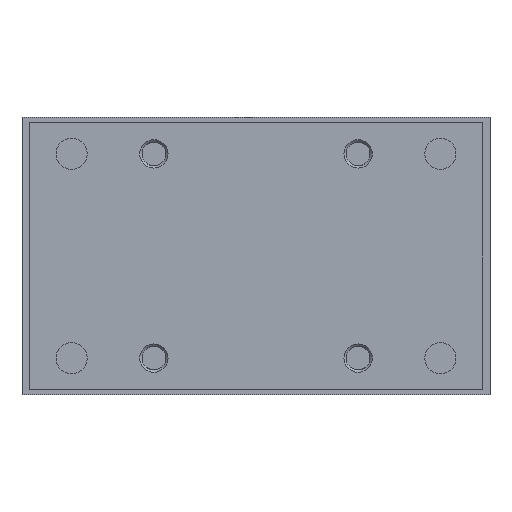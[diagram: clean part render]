
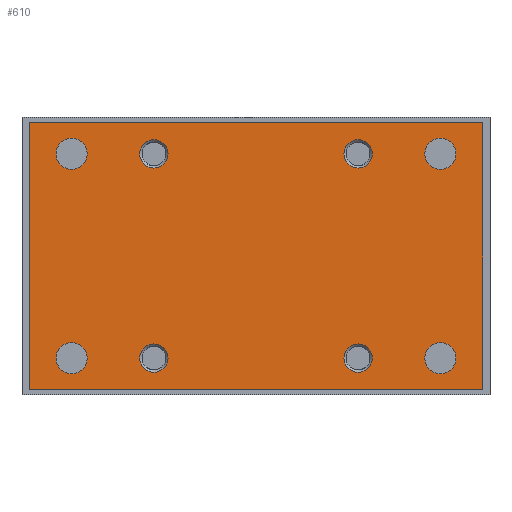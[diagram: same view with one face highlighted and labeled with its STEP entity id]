
A CAD part, left-side view. The second image highlights one B-rep face of the part: STEP entity #610.
In plain terms, the highlighted planar face has unit normal (-1, 0, 0).
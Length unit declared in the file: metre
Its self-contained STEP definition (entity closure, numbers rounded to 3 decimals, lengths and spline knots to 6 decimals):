
#610 = ADVANCED_FACE( '', ( #1417, #1418, #1419, #1420, #1421, #1422, #1423, #1424, #1425 ), #1426, .F. );
#1417 = FACE_BOUND( '', #2375, .T. );
#1418 = FACE_BOUND( '', #2376, .T. );
#1419 = FACE_BOUND( '', #2377, .T. );
#1420 = FACE_BOUND( '', #2378, .T. );
#1421 = FACE_BOUND( '', #2379, .T. );
#1422 = FACE_BOUND( '', #2380, .T. );
#1423 = FACE_BOUND( '', #2381, .T. );
#1424 = FACE_BOUND( '', #2382, .T. );
#1425 = FACE_OUTER_BOUND( '', #2383, .T. );
#1426 = PLANE( '', #2384 );
#2375 = EDGE_LOOP( '', ( #3922 ) );
#2376 = EDGE_LOOP( '', ( #3923 ) );
#2377 = EDGE_LOOP( '', ( #3924 ) );
#2378 = EDGE_LOOP( '', ( #3925 ) );
#2379 = EDGE_LOOP( '', ( #3926 ) );
#2380 = EDGE_LOOP( '', ( #3927 ) );
#2381 = EDGE_LOOP( '', ( #3928 ) );
#2382 = EDGE_LOOP( '', ( #3929 ) );
#2383 = EDGE_LOOP( '', ( #3930, #3931, #3932, #3933 ) );
#2384 = AXIS2_PLACEMENT_3D( '', #3934, #3935, #3936 );
#3922 = ORIENTED_EDGE( '', *, *, #4918, .T. );
#3923 = ORIENTED_EDGE( '', *, *, #5015, .T. );
#3924 = ORIENTED_EDGE( '', *, *, #4814, .T. );
#3925 = ORIENTED_EDGE( '', *, *, #4790, .T. );
#3926 = ORIENTED_EDGE( '', *, *, #4992, .T. );
#3927 = ORIENTED_EDGE( '', *, *, #5016, .F. );
#3928 = ORIENTED_EDGE( '', *, *, #4542, .F. );
#3929 = ORIENTED_EDGE( '', *, *, #5017, .T. );
#3930 = ORIENTED_EDGE( '', *, *, #5018, .T. );
#3931 = ORIENTED_EDGE( '', *, *, #5019, .T. );
#3932 = ORIENTED_EDGE( '', *, *, #4801, .T. );
#3933 = ORIENTED_EDGE( '', *, *, #4806, .T. );
#3934 = CARTESIAN_POINT( '', ( -0.107, -0.08, -0.096 ) );
#3935 = DIRECTION( '', ( 1., 0., 0. ) );
#3936 = DIRECTION( '', ( 0., 0., -1. ) );
#4542 = EDGE_CURVE( '', #5243, #5243, #5244, .T. );
#4790 = EDGE_CURVE( '', #5635, #5635, #5636, .T. );
#4801 = EDGE_CURVE( '', #5654, #5652, #5655, .T. );
#4806 = EDGE_CURVE( '', #5652, #5660, #5662, .T. );
#4814 = EDGE_CURVE( '', #5674, #5674, #5675, .T. );
#4918 = EDGE_CURVE( '', #5823, #5823, #5824, .T. );
#4992 = EDGE_CURVE( '', #5925, #5925, #5926, .T. );
#5015 = EDGE_CURVE( '', #5954, #5954, #5955, .T. );
#5016 = EDGE_CURVE( '', #5956, #5956, #5957, .T. );
#5017 = EDGE_CURVE( '', #5958, #5958, #5959, .T. );
#5018 = EDGE_CURVE( '', #5660, #5960, #5961, .T. );
#5019 = EDGE_CURVE( '', #5960, #5654, #5962, .T. );
#5243 = VERTEX_POINT( '', #6250 );
#5244 = CIRCLE( '', #6251, 0.005 );
#5635 = VERTEX_POINT( '', #6799 );
#5636 = CIRCLE( '', #6800, 0.0055 );
#5652 = VERTEX_POINT( '', #6819 );
#5654 = VERTEX_POINT( '', #6822 );
#5655 = LINE( '', #6823, #6824 );
#5660 = VERTEX_POINT( '', #6831 );
#5662 = LINE( '', #6834, #6835 );
#5674 = VERTEX_POINT( '', #6847 );
#5675 = CIRCLE( '', #6848, 0.0055 );
#5823 = VERTEX_POINT( '', #7026 );
#5824 = CIRCLE( '', #7027, 0.0055 );
#5925 = VERTEX_POINT( '', #7188 );
#5926 = CIRCLE( '', #7189, 0.005 );
#5954 = VERTEX_POINT( '', #7286 );
#5955 = CIRCLE( '', #7287, 0.0055 );
#5956 = VERTEX_POINT( '', #7288 );
#5957 = CIRCLE( '', #7289, 0.005 );
#5958 = VERTEX_POINT( '', #7290 );
#5959 = CIRCLE( '', #7291, 0.005 );
#5960 = VERTEX_POINT( '', #7292 );
#5961 = LINE( '', #7293, #7294 );
#5962 = LINE( '', #7295, #7296 );
#6250 = CARTESIAN_POINT( '', ( -0.107, -0.036, -0.008 ) );
#6251 = AXIS2_PLACEMENT_3D( '', #7601, #7602, #7603 );
#6799 = CARTESIAN_POINT( '', ( -0.107, 0.0705, -0.013 ) );
#6800 = AXIS2_PLACEMENT_3D( '', #7935, #7936, #7937 );
#6819 = CARTESIAN_POINT( '', ( -0.107, 0.08, -0.096 ) );
#6822 = CARTESIAN_POINT( '', ( -0.107, 0.08, -0.002 ) );
#6823 = CARTESIAN_POINT( '', ( -0.107, 0.08, -0.002 ) );
#6824 = VECTOR( '', #7951, 1. );
#6831 = CARTESIAN_POINT( '', ( -0.107, -0.08, -0.096 ) );
#6834 = CARTESIAN_POINT( '', ( -0.107, 0.08, -0.096 ) );
#6835 = VECTOR( '', #7955, 1. );
#6847 = CARTESIAN_POINT( '', ( -0.107, -0.0595, -0.013 ) );
#6848 = AXIS2_PLACEMENT_3D( '', #7971, #7972, #7973 );
#7026 = CARTESIAN_POINT( '', ( -0.107, -0.0595, -0.085 ) );
#7027 = AXIS2_PLACEMENT_3D( '', #8106, #8107, #8108 );
#7188 = CARTESIAN_POINT( '', ( -0.107, -0.036, -0.09 ) );
#7189 = AXIS2_PLACEMENT_3D( '', #8187, #8188, #8189 );
#7286 = CARTESIAN_POINT( '', ( -0.107, 0.0705, -0.085 ) );
#7287 = AXIS2_PLACEMENT_3D( '', #8205, #8206, #8207 );
#7288 = CARTESIAN_POINT( '', ( -0.107, 0.036, -0.09 ) );
#7289 = AXIS2_PLACEMENT_3D( '', #8208, #8209, #8210 );
#7290 = CARTESIAN_POINT( '', ( -0.107, 0.036, -0.008 ) );
#7291 = AXIS2_PLACEMENT_3D( '', #8211, #8212, #8213 );
#7292 = CARTESIAN_POINT( '', ( -0.107, -0.08, -0.002 ) );
#7293 = CARTESIAN_POINT( '', ( -0.107, -0.08, -0.096 ) );
#7294 = VECTOR( '', #8214, 1. );
#7295 = CARTESIAN_POINT( '', ( -0.107, -0.08, -0.002 ) );
#7296 = VECTOR( '', #8215, 1. );
#7601 = CARTESIAN_POINT( '', ( -0.107, -0.036, -0.013 ) );
#7602 = DIRECTION( '', ( -1., 0., 0. ) );
#7603 = DIRECTION( '', ( 0., 0., 1. ) );
#7935 = CARTESIAN_POINT( '', ( -0.107, 0.065, -0.013 ) );
#7936 = DIRECTION( '', ( 1., 0., 0. ) );
#7937 = DIRECTION( '', ( 0., 1., 0. ) );
#7951 = DIRECTION( '', ( 0., 0., -1. ) );
#7955 = DIRECTION( '', ( 0., -1., 0. ) );
#7971 = CARTESIAN_POINT( '', ( -0.107, -0.065, -0.013 ) );
#7972 = DIRECTION( '', ( 1., 0., 0. ) );
#7973 = DIRECTION( '', ( 0., 1., 0. ) );
#8106 = CARTESIAN_POINT( '', ( -0.107, -0.065, -0.085 ) );
#8107 = DIRECTION( '', ( 1., 0., 0. ) );
#8108 = DIRECTION( '', ( 0., 1., 0. ) );
#8187 = CARTESIAN_POINT( '', ( -0.107, -0.036, -0.085 ) );
#8188 = DIRECTION( '', ( 1., 0., 0. ) );
#8189 = DIRECTION( '', ( 0., 0., -1. ) );
#8205 = CARTESIAN_POINT( '', ( -0.107, 0.065, -0.085 ) );
#8206 = DIRECTION( '', ( 1., 0., 0. ) );
#8207 = DIRECTION( '', ( 0., 1., 0. ) );
#8208 = CARTESIAN_POINT( '', ( -0.107, 0.036, -0.085 ) );
#8209 = DIRECTION( '', ( -1., 0., 0. ) );
#8210 = DIRECTION( '', ( 0., 0., -1. ) );
#8211 = CARTESIAN_POINT( '', ( -0.107, 0.036, -0.013 ) );
#8212 = DIRECTION( '', ( 1., 0., 0. ) );
#8213 = DIRECTION( '', ( 0., 0., 1. ) );
#8214 = DIRECTION( '', ( 0., 0., 1. ) );
#8215 = DIRECTION( '', ( 0., 1., 0. ) );
